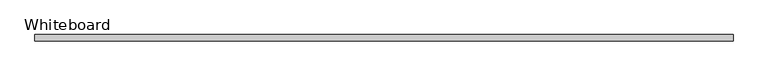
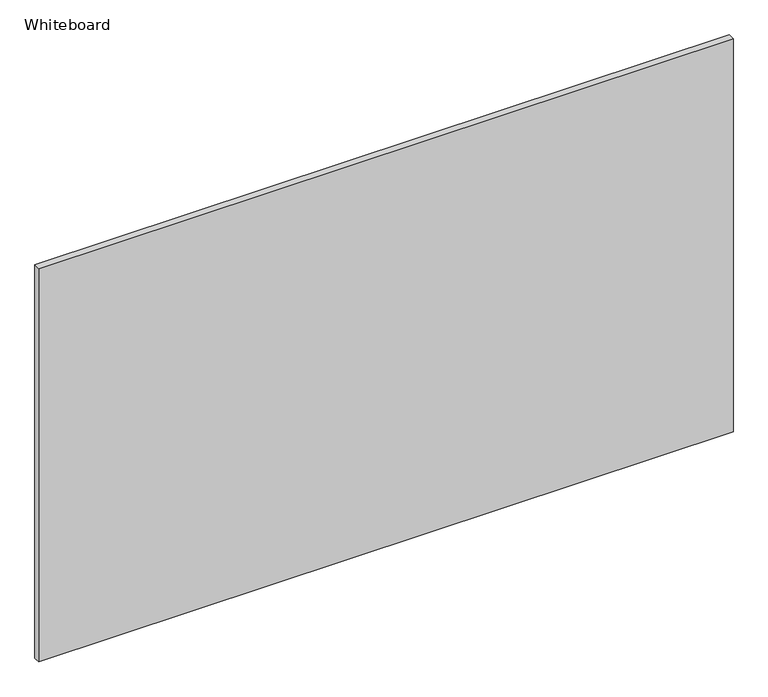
"""IFC4 building model written with IfcOpenShell, lengths in millimetres: proxy geometry, Panel-Fascia-Teknion-Altos-Whiteboard : Whiteboard."""

import ifcopenshell
import ifcopenshell.guid

model = None  # the IFC model being written
_history = None  # IfcOwnerHistory: only IFC2X3 demands one
_inside = {}  # id of a spatial element -> (the spatial element, [elements in it])
_under = {}  # id of a project, library or spatial element -> (it, [spatial elements below it])
_declared = {}  # id of a project -> (the project, [libraries it declares])
_typed = {}  # id of a type object -> (the type object, [elements of that type])
_made_of = {}  # id of a material, layer set ... -> (it, [elements and type objects made of it])


def new_model(schema):
    """Start an empty IFC model of exactly this schema.

    Asked for "IFC4X3", IfcOpenShell would pick the latest addendum, in which some entities
    have other attributes; the version numbers below select the first issue.
    IFC2X3 requires an IfcOwnerHistory on every rooted entity: one is made here for all.
    """
    global model, _history
    if schema == "IFC4X3":
        model = ifcopenshell.file(schema_version=(4, 3, 0, 0))
    else:
        model = ifcopenshell.file(schema=schema)
    _inside.clear()
    _under.clear()
    _declared.clear()
    _typed.clear()
    _made_of.clear()
    _history = None
    if model.schema == "IFC2X3":
        org = make("IfcOrganization", Name="unknown")
        user = make(
            "IfcPersonAndOrganization",
            ThePerson=make("IfcPerson", FamilyName="unknown"),
            TheOrganization=org,
        )
        app = make(
            "IfcApplication",
            ApplicationDeveloper=org,
            Version="unknown",
            ApplicationFullName="unknown",
            ApplicationIdentifier="unknown",
        )
        _history = make(
            "IfcOwnerHistory",
            OwningUser=user,
            OwningApplication=app,
            ChangeAction="ADDED",
            CreationDate=0,
        )
    return model


def make(cls, **values):
    """One entity of the class cls with the attributes given. An attribute that is None is left unset."""
    return model.create_entity(
        cls, **{name: value for name, value in values.items() if value is not None}
    )


def rooted(cls, **values):
    """An entity with a GlobalId (a new one), such as an element, a storey or a relation."""
    return make(cls, GlobalId=ifcopenshell.guid.new(), OwnerHistory=_history, **values)


def si_unit(unit_type, name, prefix=None):
    """IfcSIUnit, for example si_unit("LENGTHUNIT", "METRE", prefix="MILLI")."""
    return make("IfcSIUnit", UnitType=unit_type, Prefix=prefix, Name=name)


def assignment(units):
    """IfcUnitAssignment: the units of a project."""
    return None if units is None else make("IfcUnitAssignment", Units=units)


def point(xyz):
    """IfcCartesianPoint."""
    return None if xyz is None else make("IfcCartesianPoint", Coordinates=xyz)


def direction(xyz):
    """IfcDirection."""
    return None if xyz is None else make("IfcDirection", DirectionRatios=xyz)


def frame(location, z_axis=None, x_axis=None):
    """IfcAxis2Placement3D, a coordinate frame: its origin and axes. An axis left out is left unset."""
    return make(
        "IfcAxis2Placement3D",
        Location=point(location),
        Axis=direction(z_axis),
        RefDirection=direction(x_axis),
    )


def origin():
    """The frame at (0, 0, 0) with its axes left unset."""
    return frame((0.0, 0.0, 0.0))


def place(relative_to, where):
    """IfcLocalPlacement: puts the frame where relative to a parent placement (None: the world)."""
    return make(
        "IfcLocalPlacement", PlacementRelTo=relative_to, RelativePlacement=where
    )


def context(
    kind, dimensions, precision=None, world=None, true_north=None, identifier=None
):
    """IfcGeometricRepresentationContext, for example the 3D "Model" context."""
    return make(
        "IfcGeometricRepresentationContext",
        ContextIdentifier=identifier,
        ContextType=kind,
        CoordinateSpaceDimension=dimensions,
        Precision=precision,
        WorldCoordinateSystem=world,
        TrueNorth=true_north,
    )


def project(units=None, contexts=None):
    """IfcProject with its units and contexts."""
    return rooted(
        "IfcProject",
        Name="project",
        RepresentationContexts=contexts,
        UnitsInContext=assignment(units),
    )


def spatial(cls, under=None, at=None, **own):
    """A site, building, storey or space (cls), placed at a placement, below another one or the project."""
    s = rooted(cls, ObjectPlacement=at, **own)
    if under is not None:
        _under.setdefault(under.id(), (under, []))[1].append(s)
    return s


def polyline(points):
    """IfcPolyline through the points."""
    return make("IfcPolyline", Points=[point(p) for p in points])


def outline(outer, holes=None, kind="AREA"):
    """IfcArbitraryClosedProfileDef: a profile drawn as a closed curve; with holes, ...WithVoids."""
    if holes is None:
        return make("IfcArbitraryClosedProfileDef", ProfileType=kind, OuterCurve=outer)
    return make(
        "IfcArbitraryProfileDefWithVoids",
        ProfileType=kind,
        OuterCurve=outer,
        InnerCurves=holes,
    )


def extrude(swept, where, along, depth):
    """IfcExtrudedAreaSolid: the profile swept, set in the frame where, extruded along a direction by depth."""
    return make(
        "IfcExtrudedAreaSolid",
        SweptArea=swept,
        Position=where,
        ExtrudedDirection=direction(along),
        Depth=depth,
    )


def shape(context_of_items, identifier, shape_type, items):
    """IfcShapeRepresentation: the items that make up one representation, for example the "Body"."""
    return make(
        "IfcShapeRepresentation",
        ContextOfItems=context_of_items,
        RepresentationIdentifier=identifier,
        RepresentationType=shape_type,
        Items=items,
    )


def source(mapping_origin, context_of_items, identifier, shape_type, items):
    """IfcRepresentationMap: a shape defined once, which mapped items show again and again."""
    return make(
        "IfcRepresentationMap",
        MappingOrigin=mapping_origin,
        MappedRepresentation=shape(context_of_items, identifier, shape_type, items),
    )


def transform(
    local_origin,
    x_axis=None,
    y_axis=None,
    z_axis=None,
    scale=None,
    scale2=None,
    scale3=None,
    uniform=True,
):
    """IfcCartesianTransformationOperator3D, or its non-uniform kind. x_axis, y_axis, z_axis: its Axis1, 2, 3."""
    if uniform:
        return make(
            "IfcCartesianTransformationOperator3D",
            Axis1=direction(x_axis),
            Axis2=direction(y_axis),
            LocalOrigin=point(local_origin),
            Scale=scale,
            Axis3=direction(z_axis),
        )
    return make(
        "IfcCartesianTransformationOperator3DnonUniform",
        Axis1=direction(x_axis),
        Axis2=direction(y_axis),
        LocalOrigin=point(local_origin),
        Scale=scale,
        Axis3=direction(z_axis),
        Scale2=scale2,
        Scale3=scale3,
    )


def mapped(mapping_source, mapping_target):
    """IfcMappedItem: shows the shape of a source again, moved by a transform."""
    return make(
        "IfcMappedItem", MappingSource=mapping_source, MappingTarget=mapping_target
    )


def made_of(thing, what):
    """Note that an element or type object is made of a material, layer set ...; save() writes the relation."""
    if what is not None:
        _made_of.setdefault(what.id(), (what, []))[1].append(thing)
    return thing


def element(
    cls,
    number,
    at=None,
    inside=None,
    cuts=None,
    type_object=None,
    material=None,
    context=None,
    identifier="Body",
    shape_type=None,
    held_by="IfcProductDefinitionShape",
    body=None,
    shapes=None,
    **own,
):
    """One element of the class cls, such as IfcWall. Its Tag is "e" and its number.

    at: its placement. inside: the storey or other place that contains it. cuts: it is an
    opening in that element (IfcRelVoidsElement). A single representation is given by context,
    identifier, shape_type and body (its items); several are given by shapes. held_by: the class
    of the entity that holds the representations. save() writes the other relations.
    """
    e = rooted(cls, Tag="e%d" % number, ObjectPlacement=at, **own)
    if body is not None:
        shapes = [shape(context, identifier, shape_type, body)]
    if shapes is not None:
        e.Representation = make(held_by, Representations=shapes)
    if inside is not None:
        _inside.setdefault(inside.id(), (inside, []))[1].append(e)
    if cuts is not None:
        rooted(
            "IfcRelVoidsElement", RelatingBuildingElement=cuts, RelatedOpeningElement=e
        )
    if type_object is not None:
        _typed.setdefault(type_object.id(), (type_object, []))[1].append(e)
    return made_of(e, material)


def aggregate(whole, parts):
    """IfcRelAggregates: a whole, such as a stair, and the parts it consists of."""
    return rooted("IfcRelAggregates", RelatingObject=whole, RelatedObjects=parts)


def save(model, path):
    """Write the relations noted so far, then the file.

    IfcRelAggregates (storeys below a building ...), IfcRelContainedInSpatialStructure (elements
    in a storey), IfcRelDefinesByType, IfcRelAssociatesMaterial and IfcRelDeclares: one each for
    every whole, place, type object, material and project.
    """
    for whole, parts in _under.values():
        aggregate(whole, parts)
    for where, things in _inside.values():
        rooted(
            "IfcRelContainedInSpatialStructure",
            RelatedElements=things,
            RelatingStructure=where,
        )
    for kind, things in _typed.values():
        rooted("IfcRelDefinesByType", RelatedObjects=things, RelatingType=kind)
    for what, things in _made_of.values():
        rooted("IfcRelAssociatesMaterial", RelatedObjects=things, RelatingMaterial=what)
    for by, libraries in _declared.values():
        rooted("IfcRelDeclares", RelatingContext=by, RelatedDefinitions=libraries)
    model.write(path)


def whiteboard_fe8ffc8d(model_context):
    return source(origin(), model_context, "Body", "SweptSolid", [
        extrude(outline(polyline([(1209.7074562, 19.05), (1209.7074562, 0.0), (-815.9536563, 0.0), (-815.9536563, 19.05), (1209.7074562, 19.05)])), frame((0.0, 0.0, 3.175), z_axis=(0.0, 0.0, 1.0), x_axis=(1.0, 0.0, 0.0)), (0.0, 0.0, 1.0), 1212.85),
    ])


if __name__ == "__main__":
    model = new_model("IFC4")
    model_context = context("Model", 3, world=origin())
    ifc_project = project(units=[si_unit("LENGTHUNIT", "METRE", prefix="MILLI")], contexts=[model_context])
    site = spatial("IfcSite", under=ifc_project)
    building = spatial("IfcBuilding", under=site)
    placement = place(None, origin())
    whiteboard_shape = whiteboard_fe8ffc8d(model_context)
    element("IfcBuildingElementProxy", 1, Name="Panel-Fascia-Teknion-Altos-Whiteboard : Whiteboard", ObjectType="Panel-Fascia-Teknion-Altos-Whiteboard : Whiteboard", at=placement, inside=building, context=model_context, shape_type="MappedRepresentation", body=[
        mapped(whiteboard_shape, transform((0.0, 0.0, 0.0), x_axis=(1.0, 0.0, 0.0), y_axis=(0.0, 1.0, 0.0), z_axis=(0.0, 0.0, 1.0))),
    ])
    save(model, "model.ifc")
